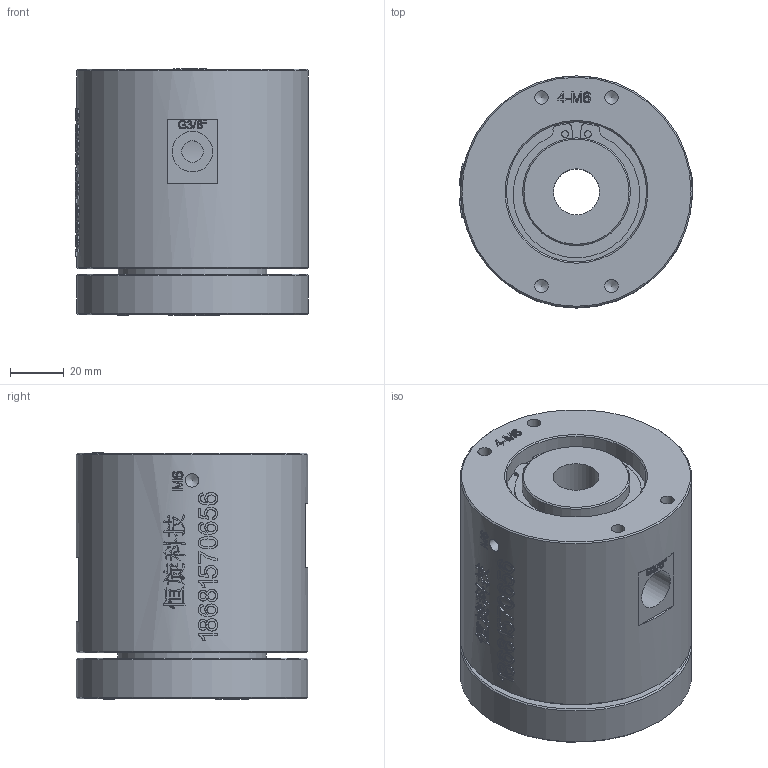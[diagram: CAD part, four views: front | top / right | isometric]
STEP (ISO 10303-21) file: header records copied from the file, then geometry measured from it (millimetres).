
FILE_DESCRIPTION(/* description */ (''),/* implementation_level */ '2;1');
FILE_NAME(/* name */ 'HQD0203-3D模型.stp',/* time_stamp */ '2025-08-02T17:36:56+08:00',/* author */ (''),/* organization */ (''),/* preprocessor_version */ 'ST-DEVELOPER v16.7',/* originating_system */ 'SIEMENS PLM Software NX 12.0',/* authorisation */ '');
FILE_SCHEMA (('AUTOMOTIVE_DESIGN { 1 0 10303 214 3 1 1 1 }'));
Length unit declared in the file: millimetre
Products named in the file (1): Admi0A2CCD10cfc4
Bounding box: 86.52 x 86 x 91.4 mm (x, y, z)
Volume: 482088.4 mm3; surface area: 54623.4 mm2
Topology: 1 solids, 1 shells, 1216 faces, 3351 edges, 2233 vertices
Faces by surface type: extrusion 694, plane 405, cylinder 54, bspline 46, cone 17
Full cylindrical faces by diameter (mm): 2.5 x2, 5 x10, 8 x4, 15 x4, 17 x1, 37.5 x1, 40 x1, 52 x1, 55 x1, 65 x1, 86 x2
Entity records: 46547 total; most frequent: CARTESIAN_POINT 20932, ORIENTED_EDGE 6544, B_SPLINE_CURVE_WITH_KNOTS 3286, EDGE_CURVE 3272, DIRECTION 2564, VERTEX_POINT 2210, EDGE_LOOP 1360, ADVANCED_FACE 1216
